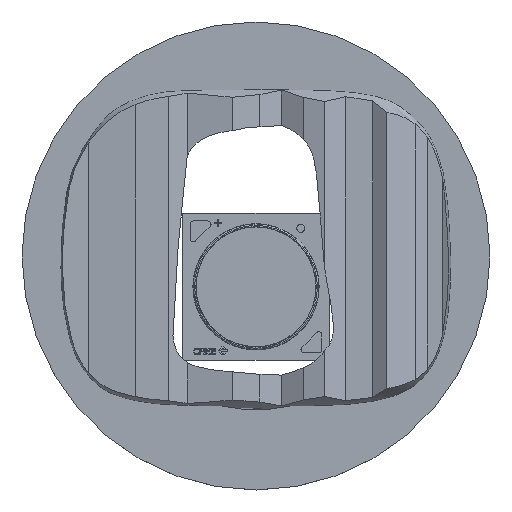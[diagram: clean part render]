
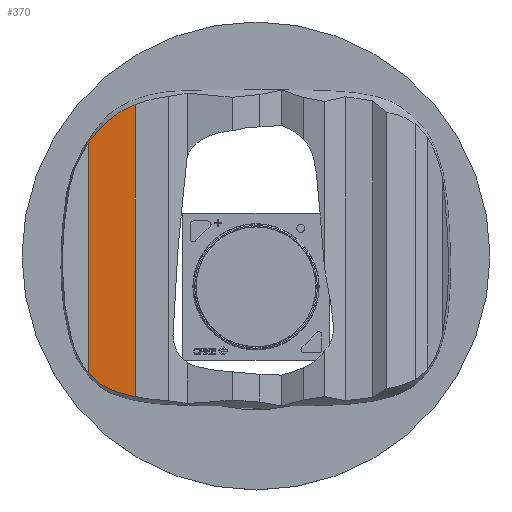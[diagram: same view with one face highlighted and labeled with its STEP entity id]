
A CAD part, top view. The second image highlights one B-rep face of the part: STEP entity #370.
In plain terms, the highlighted planar face has unit normal (-0.085, 0, 0.996).
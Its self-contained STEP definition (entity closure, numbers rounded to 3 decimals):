
#370=ADVANCED_FACE('',(#903),#904,.T.);
#903=FACE_OUTER_BOUND('',#12790,.T.);
#904=PLANE('',#12791);
#12790=EDGE_LOOP('',(#26732,#26733,#26734,#26735));
#12791=AXIS2_PLACEMENT_3D('',#26736,#26737,#26738);
#26732=ORIENTED_EDGE('',*,*,#27626,.T.);
#26733=ORIENTED_EDGE('',*,*,#27627,.F.);
#26734=ORIENTED_EDGE('',*,*,#27624,.F.);
#26735=ORIENTED_EDGE('',*,*,#27602,.F.);
#26736=CARTESIAN_POINT('',(-27.253,-87.507,7.189));
#26737=DIRECTION('',(-0.085,0.0,0.996));
#26738=DIRECTION('',(0.0,1.0,0.0));
#27602=EDGE_CURVE('',#28846,#28848,#28849,.T.);
#27624=EDGE_CURVE('',#28848,#28883,#28884,.T.);
#27626=EDGE_CURVE('',#28846,#28886,#28887,.T.);
#27627=EDGE_CURVE('',#28883,#28886,#28888,.T.);
#28846=VERTEX_POINT('',#31465);
#28848=VERTEX_POINT('',#31474);
#28849=B_SPLINE_CURVE_WITH_KNOTS('',3,(#31475,#31476,#31477,#31478,#31479,#31480,#31481,#31482,#31483,#31484,#31485,#31486),.UNSPECIFIED.,.F.,.F.,(4,2,2,2,2,4),(0.0,0.002,0.003,0.004,0.007,0.009),.UNSPECIFIED.);
#28883=VERTEX_POINT('',#31686);
#28884=LINE('',#31687,#31688);
#28886=VERTEX_POINT('',#31721);
#28887=LINE('',#31722,#31723);
#28888=B_SPLINE_CURVE_WITH_KNOTS('',3,(#31724,#31725,#31726,#31727,#31728,#31729,#31730,#31731,#31732,#31733,#31734,#31735,#31736,#31737),.UNSPECIFIED.,.F.,.F.,(4,2,2,2,2,2,4),(0.0,0.001,0.002,0.005,0.006,0.007,0.01),.UNSPECIFIED.);
#31465=CARTESIAN_POINT('',(-19.65,-22.831,7.835));
#31474=CARTESIAN_POINT('',(-27.253,-18.964,7.189));
#31475=CARTESIAN_POINT('',(-19.65,-22.831,7.835));
#31476=CARTESIAN_POINT('',(-20.368,-22.702,7.774));
#31477=CARTESIAN_POINT('',(-21.076,-22.543,7.714));
#31478=CARTESIAN_POINT('',(-22.121,-22.24,7.625));
#31479=CARTESIAN_POINT('',(-22.466,-22.129,7.596));
#31480=CARTESIAN_POINT('',(-23.149,-21.884,7.538));
#31481=CARTESIAN_POINT('',(-23.488,-21.75,7.509));
#31482=CARTESIAN_POINT('',(-24.485,-21.29,7.424));
#31483=CARTESIAN_POINT('',(-25.104,-20.917,7.372));
#31484=CARTESIAN_POINT('',(-26.249,-20.035,7.274));
#31485=CARTESIAN_POINT('',(-26.777,-19.521,7.23));
#31486=CARTESIAN_POINT('',(-27.253,-18.964,7.189));
#31686=CARTESIAN_POINT('',(-27.253,18.333,7.189));
#31687=CARTESIAN_POINT('',(-27.253,-87.507,7.189));
#31688=VECTOR('',#33305,1000.0);
#31721=CARTESIAN_POINT('',(-19.65,24.56,7.835));
#31722=CARTESIAN_POINT('',(-19.65,-87.507,7.835));
#31723=VECTOR('',#33306,1000.0);
#31724=CARTESIAN_POINT('',(-27.253,18.333,7.189));
#31725=CARTESIAN_POINT('',(-27.012,18.676,7.21));
#31726=CARTESIAN_POINT('',(-26.762,19.009,7.231));
#31727=CARTESIAN_POINT('',(-26.246,19.663,7.275));
#31728=CARTESIAN_POINT('',(-25.981,19.983,7.297));
#31729=CARTESIAN_POINT('',(-25.16,20.919,7.367));
#31730=CARTESIAN_POINT('',(-24.58,21.513,7.416));
#31731=CARTESIAN_POINT('',(-23.631,22.329,7.497));
#31732=CARTESIAN_POINT('',(-23.299,22.59,7.525));
#31733=CARTESIAN_POINT('',(-22.619,23.075,7.583));
#31734=CARTESIAN_POINT('',(-22.269,23.299,7.612));
#31735=CARTESIAN_POINT('',(-21.192,23.923,7.704));
#31736=CARTESIAN_POINT('',(-20.437,24.27,7.768));
#31737=CARTESIAN_POINT('',(-19.65,24.56,7.835));
#33305=DIRECTION('',(0.0,1.0,0.0));
#33306=DIRECTION('',(0.0,1.0,0.0));
